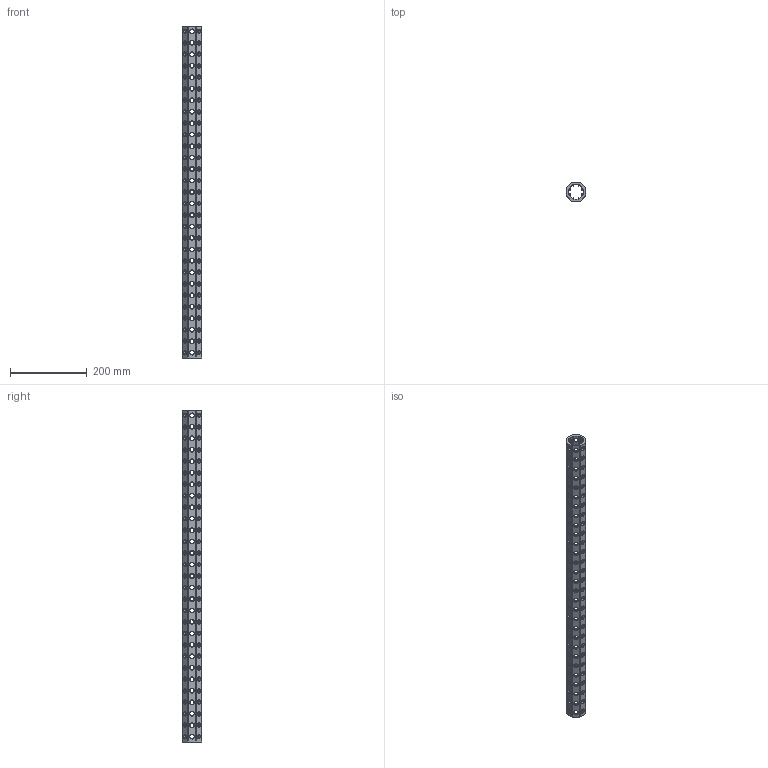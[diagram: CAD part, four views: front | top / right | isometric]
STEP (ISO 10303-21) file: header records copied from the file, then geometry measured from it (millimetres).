
FILE_DESCRIPTION(('CATIA V5 STEP Exchange'),'2;1');
FILE_NAME('U:\Room\唐宝山\EGT002\46-01-010258-01-EGT002-868.stp','2021-08-24T01:09:44+00:00',('none'),('none'),'CATIA Version 5 Release 21 GA (IN-10)','CATIA V5 STEP AP203','none');
FILE_SCHEMA(('CONFIG_CONTROL_DESIGN'));
Products named in the file (1): 46-01-010258-01-EGT002-868
Bounding box: 50 x 50 x 868 mm (x, y, z)
Volume: 618296.1 mm3; surface area: 299108.5 mm2
Topology: 1 solids, 1 shells, 1244 faces, 3436 edges, 2136 vertices
Faces by surface type: cone 696, cylinder 522, plane 26
Entity records: 53778 total; most frequent: CARTESIAN_POINT 23865, ORIENTED_EDGE 6872, DIRECTION 4718, EDGE_CURVE 3436, VERTEX_POINT 2136, AXIS2_PLACEMENT_3D 2127, EDGE_LOOP 1652, VECTOR 1348
